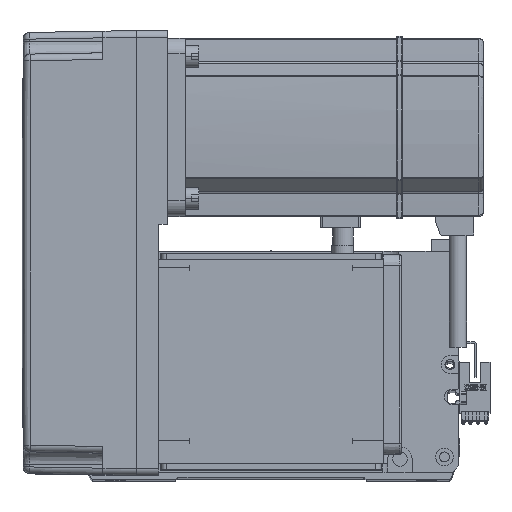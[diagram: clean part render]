
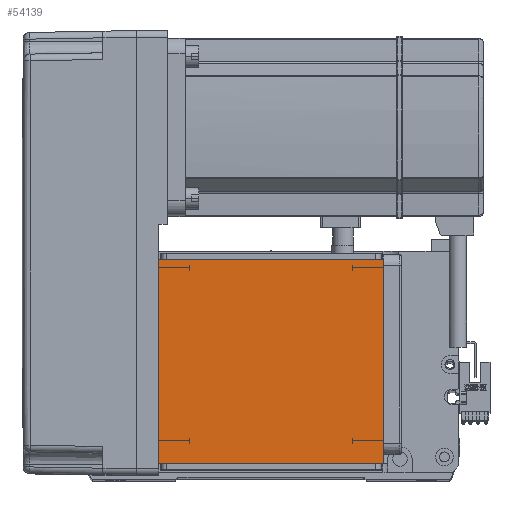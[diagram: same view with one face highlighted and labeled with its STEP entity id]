
A CAD part, top view. The second image highlights one B-rep face of the part: STEP entity #54139.
In plain terms, the highlighted planar face has unit normal (0, 0, 1).
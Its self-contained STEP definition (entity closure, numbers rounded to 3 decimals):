
#1007 = LINE ( 'NONE', #39956, #17371 ) ;
#1016 = ORIENTED_EDGE ( 'NONE', *, *, #49786, .T. ) ;
#1604 = ORIENTED_EDGE ( 'NONE', *, *, #7320, .F. ) ;
#2447 = DIRECTION ( 'NONE',  ( 0., -1., 0. ) ) ;
#4804 = DIRECTION ( 'NONE',  ( 0., 0., 1. ) ) ;
#7320 = EDGE_CURVE ( 'NONE', #44748, #44113, #46078, .T. ) ;
#10171 = ORIENTED_EDGE ( 'NONE', *, *, #27215, .T. ) ;
#11372 = VECTOR ( 'NONE', #51285, 1000. ) ;
#12495 = VECTOR ( 'NONE', #2447, 1000. ) ;
#17371 = VECTOR ( 'NONE', #53101, 1000. ) ;
#20328 = DIRECTION ( 'NONE',  ( 1., 0., 0. ) ) ;
#21780 = DIRECTION ( 'NONE',  ( 1., 0., 0. ) ) ;
#22949 = EDGE_CURVE ( 'NONE', #27730, #28859, #44353, .T. ) ;
#27215 = EDGE_CURVE ( 'NONE', #44748, #28859, #1007, .T. ) ;
#27730 = VERTEX_POINT ( 'NONE', #31654 ) ;
#28363 = AXIS2_PLACEMENT_3D ( 'NONE', #48211, #4804, #21780 ) ;
#28859 = VERTEX_POINT ( 'NONE', #41764 ) ;
#29512 = CARTESIAN_POINT ( 'NONE',  ( 50.5, 20., 115. ) ) ;
#30866 = PLANE ( 'NONE',  #28363 ) ;
#31654 = CARTESIAN_POINT ( 'NONE',  ( -50.5, 111.5, 115. ) ) ;
#32745 = VECTOR ( 'NONE', #20328, 1000. ) ;
#34291 = CARTESIAN_POINT ( 'NONE',  ( -70.004, 20., 115. ) ) ;
#34514 = EDGE_LOOP ( 'NONE', ( #34835, #1016, #1604, #10171 ) ) ;
#34835 = ORIENTED_EDGE ( 'NONE', *, *, #22949, .F. ) ;
#39956 = CARTESIAN_POINT ( 'NONE',  ( 50.5, 122., 115. ) ) ;
#41764 = CARTESIAN_POINT ( 'NONE',  ( 50.5, 111.5, 115. ) ) ;
#44113 = VERTEX_POINT ( 'NONE', #55826 ) ;
#44353 = LINE ( 'NONE', #54976, #32745 ) ;
#44485 = LINE ( 'NONE', #54639, #12495 ) ;
#44748 = VERTEX_POINT ( 'NONE', #29512 ) ;
#46078 = LINE ( 'NONE', #34291, #11372 ) ;
#48211 = CARTESIAN_POINT ( 'NONE',  ( 0., 0., 115. ) ) ;
#49786 = EDGE_CURVE ( 'NONE', #27730, #44113, #44485, .T. ) ;
#49908 = FACE_OUTER_BOUND ( 'NONE', #34514, .T. ) ;
#51285 = DIRECTION ( 'NONE',  ( -1., 0., 0. ) ) ;
#53101 = DIRECTION ( 'NONE',  ( 0., 1., 0. ) ) ;
#54139 = ADVANCED_FACE ( 'NONE', ( #49908 ), #30866, .T. ) ;
#54639 = CARTESIAN_POINT ( 'NONE',  ( -50.5, 122., 115. ) ) ;
#54976 = CARTESIAN_POINT ( 'NONE',  ( -70.004, 111.5, 115. ) ) ;
#55826 = CARTESIAN_POINT ( 'NONE',  ( -50.5, 20., 115. ) ) ;
